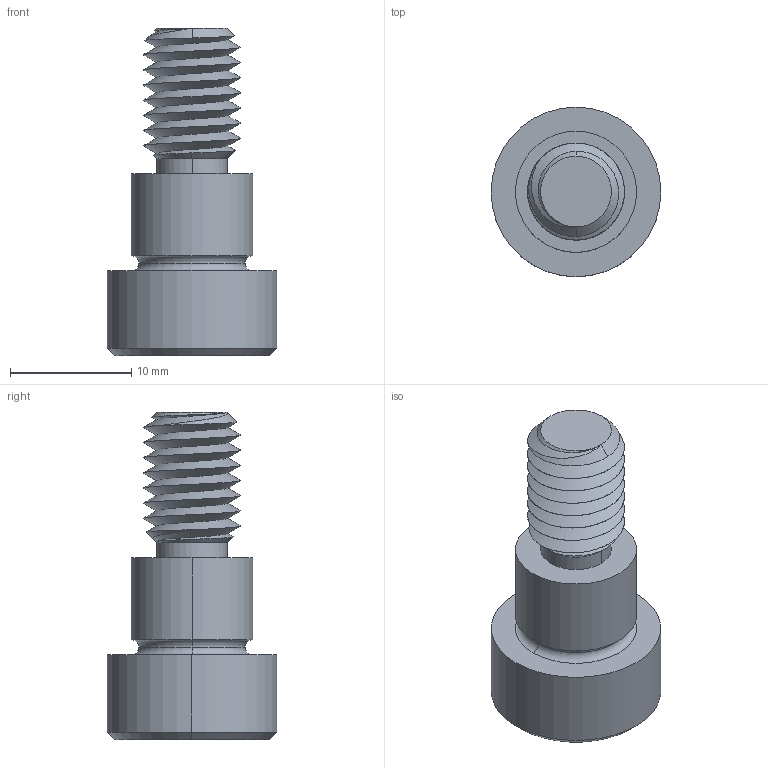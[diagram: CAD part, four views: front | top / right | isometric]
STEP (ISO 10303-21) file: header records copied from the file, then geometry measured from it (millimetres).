
FILE_DESCRIPTION (( 'STEP AP203' ), '1' );
FILE_NAME ('P0130.100-008-B8.step', '2021-11-09T21:49:25', ( '' ), ( '' ), 'SwSTEP 2.0', 'SolidWorks 2019', '' );
FILE_SCHEMA (( 'CONFIG_CONTROL_DESIGN' ));
Length unit declared in the file: millimetre
Products named in the file (1): P0130.100-008-B8
Bounding box: 14 x 14 x 27 mm (x, y, z)
Volume: 1995.3 mm3; surface area: 1429.3 mm2
Topology: 1 solids, 1 shells, 58 faces, 136 edges, 81 vertices
Faces by surface type: cylinder 21, plane 16, cone 15, torus 4, bspline 2
Entity records: 4214 total; most frequent: CARTESIAN_POINT 2911, ORIENTED_EDGE 268, DIRECTION 241, EDGE_CURVE 134, AXIS2_PLACEMENT_3D 97, VERTEX_POINT 81, EDGE_LOOP 61, FACE_OUTER_BOUND 58
